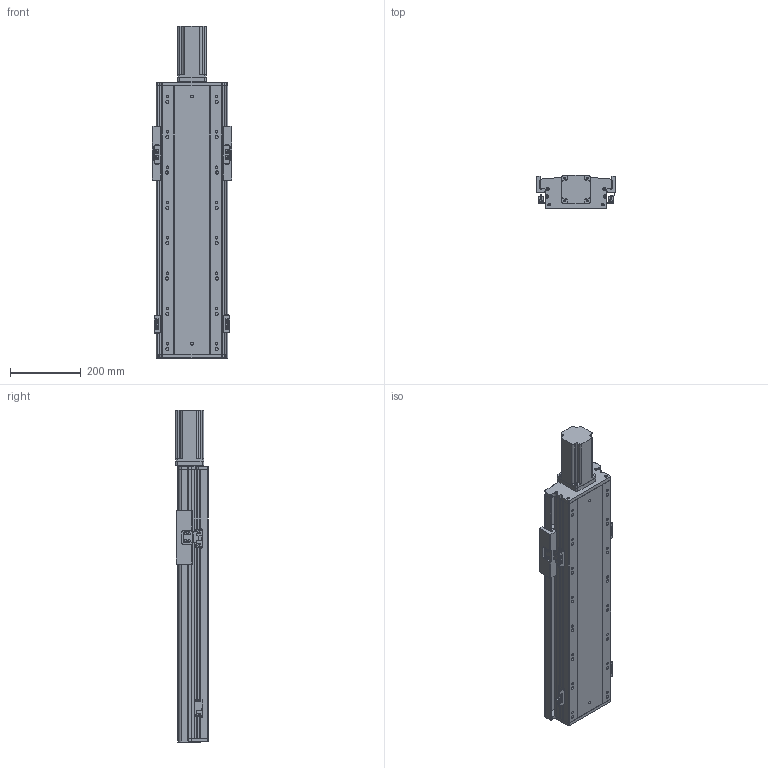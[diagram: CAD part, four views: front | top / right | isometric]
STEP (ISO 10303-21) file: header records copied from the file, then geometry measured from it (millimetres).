
FILE_DESCRIPTION (( 'STEP AP203' ), '1' );
FILE_NAME ('RY170FB-L2510-300-MK.SLDASM_450.step', '2021-02-22T08:56:31', ( '盈信电脑' ), ( '东莞市道滘镇水果街19号' ), 'SwSTEP 2.0', 'SolidWorks 2012', '' );
FILE_SCHEMA (( 'CONFIG_CONTROL_DESIGN' ));
Length unit declared in the file: millimetre
Products named in the file (16): RY170FB-L2510-300-MK.SLDASM_450; RY140-674嫖萇耀輸; RY140FB-674嫖萇覜茼え; RY140FB-覜茼え; 侂狟750W萇儂ㄗ80遺ㄘ; 750W萇儂梓袧蛌諉啣; RY140直线电机感应器674光电安装座; 覜茼ん674; 滅袉蝶18-10; RY170FB-铝滑块(25丝杆）; RY170FB-300奻裔_450; RY170FB-綴裔啣; 滅袉蝶18-28; RY170FB-ヶ裔啣; RY170FB-300倰第菁釱-MK_450
Assembly tree (20 placements, depth 3):
  RY170FB-L2510-300-MK.SLDASM_450
    RY170FB-300倰第菁釱-MK_450
    RY170FB-綴裔啣
    RY170FB-ヶ裔啣
    滅袉蝶18-28
    滅袉蝶18-10
    RY170FB-铝滑块(25丝杆）
    RY170FB-300奻裔_450
    750W萇儂梓袧蛌諉啣
    侂狟750W萇儂ㄗ80遺ㄘ
    RY140-674嫖萇耀輸  x2
      覜茼ん674
      RY140直线电机感应器674光电安装座
    RY140FB-674嫖萇覜茼え
    RY140-674嫖萇耀輸  x2
      覜茼ん674
      RY140直线电机感应器674光电安装座
    RY140FB-覜茼え
Bounding box: 225 x 93.2 x 939.5 mm (x, y, z)
Volume: 5343152.6 mm3; surface area: 1454383.3 mm2
Topology: 21 solids, 21 shells, 1595 faces, 4553 edges, 2938 vertices
Faces by surface type: plane 761, cylinder 738, cone 96
Entity records: 40597 total; most frequent: CARTESIAN_POINT 8668, ORIENTED_EDGE 6366, DIRECTION 6309, EDGE_CURVE 3183, AXIS2_PLACEMENT_3D 2287, VERTEX_POINT 2092, VECTOR 1735, LINE 1735
